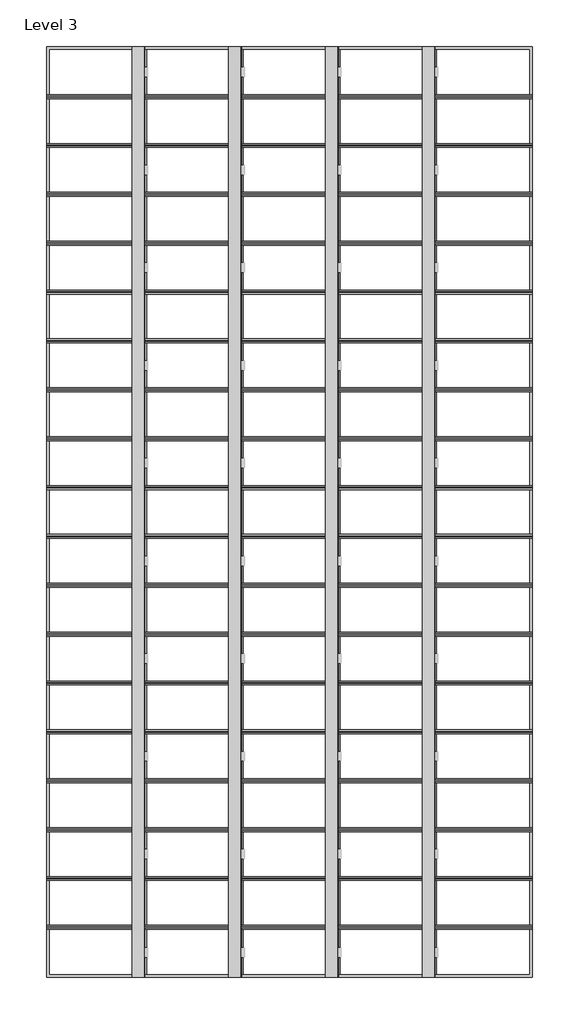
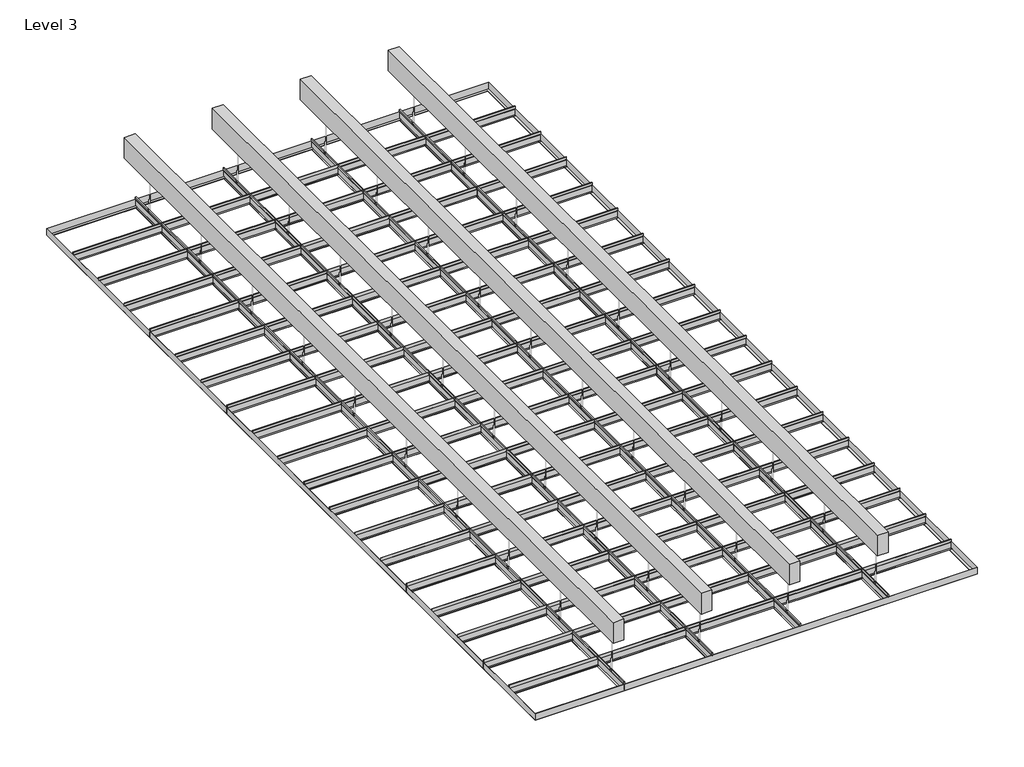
# One storey, part 1 of 2: 99 beams.
"""IFC4 building model written with IfcOpenShell, lengths in millimetres."""

from ifc_helpers import new_model, si_unit, origin, place, context, project, spatial, transform, mapped, element, save
from components import beam_7c791b7a, beam_b98c3e7d, ss7200_main_beams1_ss7200_main_beams_b51246fc, ss7200_main_beams11_ss7200_main_beams_49a61874, ss7200_main_beams73_ss7200_main_beams_fb220c4c, structural_support_from_slab1_structural_support_from_slab_da7f1bc3, structural_support_from_slab2_structural_support_from_slab_a1e1174d, structural_support_from_slab3_structural_support_from_slab_d8c653cb, structural_support_from_slab4_structural_support_from_slab_b1f46c81

model = new_model("IFC4")

# Units and contexts
model_context = context("Model", 3, world=origin())
ifc_project = project(units=[si_unit("LENGTHUNIT", "METRE", prefix="MILLI")], contexts=[model_context])

# Site, building, storey
site = spatial("IfcSite", under=ifc_project)
building = spatial("IfcBuilding", under=site)
storey = spatial("IfcBuildingStorey", under=building, Name="Level 3", Elevation=3355.6966054)

# Beams
placement = place(None, origin())
beam_shape = beam_7c791b7a(model_context)
element("IfcBeam", 1, ObjectType="XLSS7220 CROSS TEE1 : XLSS7220 CROSS TEE", at=placement, inside=storey, context=model_context, shape_type="MappedRepresentation", body=[
    mapped(beam_shape, transform((0.0, 0.0, 0.0), x_axis=(1.0, 0.0, 0.0), y_axis=(0.0, 1.0, 0.0), z_axis=(0.0, 0.0, 1.0))),
])
element("IfcBeam", 2, ObjectType="XLSS7220 CROSS TEE2 : XLSS7220 CROSS TEE", at=placement, inside=storey, context=model_context, shape_type="MappedRepresentation", body=[
    mapped(beam_shape, transform((-1231.020625, 0.0, 0.0), x_axis=(1.0, 0.0, 0.0), y_axis=(0.0, 1.0, 0.0), z_axis=(0.0, 0.0, 1.0))),
])
element("IfcBeam", 3, ObjectType="XLSS7220 CROSS TEE3 : XLSS7220 CROSS TEE", at=placement, inside=storey, context=model_context, shape_type="MappedRepresentation", body=[
    mapped(beam_shape, transform((-2462.120625, 0.0, 0.0), x_axis=(1.0, 0.0, 0.0), y_axis=(0.0, 1.0, 0.0), z_axis=(0.0, 0.0, 1.0))),
])
element("IfcBeam", 4, ObjectType="XLSS7220 CROSS TEE4 : XLSS7220 CROSS TEE", at=placement, inside=storey, context=model_context, shape_type="MappedRepresentation", body=[
    mapped(beam_shape, transform((-3693.220625, 0.0, 0.0), x_axis=(1.0, 0.0, 0.0), y_axis=(0.0, 1.0, 0.0), z_axis=(0.0, 0.0, 1.0))),
])
beam_2_shape = beam_b98c3e7d(model_context)
element("IfcBeam", 5, ObjectType="SS7801 HEMMED EDGE MOLDING : SS7801 HEMMED EDGE MOLDING", at=placement, inside=storey, context=model_context, shape_type="MappedRepresentation", body=[
    mapped(beam_2_shape, transform((0.0, 0.0, 0.0), x_axis=(1.0, 0.0, 0.0), y_axis=(0.0, 1.0, 0.0), z_axis=(0.0, 0.0, 1.0))),
])
ss7200_main_beams1_ss7200_main_beams_shape = ss7200_main_beams1_ss7200_main_beams_b51246fc(model_context)
element("IfcBeam", 6, ObjectType="SS7200 Main Beams1 : SS7200 Main Beams", at=placement, inside=storey, context=model_context, shape_type="MappedRepresentation", body=[
    mapped(ss7200_main_beams1_ss7200_main_beams_shape, transform((0.0, 550.0604687, -1.984375), x_axis=(1.0, 0.0, 0.0), y_axis=(0.0, 1.0, 0.0), z_axis=(0.0, 0.0, 1.0))),
])
element("IfcBeam", 7, ObjectType="SS7200 Main Beams10 : SS7200 Main Beams", at=placement, inside=storey, context=model_context, shape_type="MappedRepresentation", body=[
    mapped(ss7200_main_beams1_ss7200_main_beams_shape, transform((-1231.1, -692.9395313, -1.984375), x_axis=(1.0, 0.0, 0.0), y_axis=(0.0, 1.0, 0.0), z_axis=(0.0, 0.0, 1.0))),
])
ss7200_main_beams11_ss7200_main_beams_shape = ss7200_main_beams11_ss7200_main_beams_49a61874(model_context)
element("IfcBeam", 8, ObjectType="SS7200 Main Beams11 : SS7200 Main Beams", at=placement, inside=storey, context=model_context, shape_type="MappedRepresentation", body=[
    mapped(ss7200_main_beams11_ss7200_main_beams_shape, transform((-16.4977839, -1935.9395313, -1.984375), x_axis=(1.0, 0.0, 0.0), y_axis=(0.0, 1.0, 0.0), z_axis=(0.0, 0.0, 1.0))),
])
element("IfcBeam", 9, ObjectType="SS7200 Main Beams12 : SS7200 Main Beams", at=placement, inside=storey, context=model_context, shape_type="MappedRepresentation", body=[
    mapped(ss7200_main_beams1_ss7200_main_beams_shape, transform((-2462.2, -692.9395313, -1.984375), x_axis=(1.0, 0.0, 0.0), y_axis=(0.0, 1.0, 0.0), z_axis=(0.0, 0.0, 1.0))),
])
element("IfcBeam", 10, ObjectType="SS7200 Main Beams13 : SS7200 Main Beams", at=placement, inside=storey, context=model_context, shape_type="MappedRepresentation", body=[
    mapped(ss7200_main_beams1_ss7200_main_beams_shape, transform((-1231.1, -1314.4395313, -1.984375), x_axis=(1.0, 0.0, 0.0), y_axis=(0.0, 1.0, 0.0), z_axis=(0.0, 0.0, 1.0))),
])
element("IfcBeam", 11, ObjectType="SS7200 Main Beams14 : SS7200 Main Beams", at=placement, inside=storey, context=model_context, shape_type="MappedRepresentation", body=[
    mapped(ss7200_main_beams11_ss7200_main_beams_shape, transform((-16.4977839, -2557.4395313, -1.984375), x_axis=(1.0, 0.0, 0.0), y_axis=(0.0, 1.0, 0.0), z_axis=(0.0, 0.0, 1.0))),
])
element("IfcBeam", 12, ObjectType="SS7200 Main Beams15 : SS7200 Main Beams", at=placement, inside=storey, context=model_context, shape_type="MappedRepresentation", body=[
    mapped(ss7200_main_beams1_ss7200_main_beams_shape, transform((-2462.2, -1314.4395313, -1.984375), x_axis=(1.0, 0.0, 0.0), y_axis=(0.0, 1.0, 0.0), z_axis=(0.0, 0.0, 1.0))),
])
element("IfcBeam", 13, ObjectType="SS7200 Main Beams16 : SS7200 Main Beams", at=placement, inside=storey, context=model_context, shape_type="MappedRepresentation", body=[
    mapped(ss7200_main_beams1_ss7200_main_beams_shape, transform((-1231.1, -1935.9395313, -1.984375), x_axis=(1.0, 0.0, 0.0), y_axis=(0.0, 1.0, 0.0), z_axis=(0.0, 0.0, 1.0))),
])
element("IfcBeam", 14, ObjectType="SS7200 Main Beams17 : SS7200 Main Beams", at=placement, inside=storey, context=model_context, shape_type="MappedRepresentation", body=[
    mapped(ss7200_main_beams11_ss7200_main_beams_shape, transform((-16.4977839, -3178.9395313, -1.984375), x_axis=(1.0, 0.0, 0.0), y_axis=(0.0, 1.0, 0.0), z_axis=(0.0, 0.0, 1.0))),
])
element("IfcBeam", 15, ObjectType="SS7200 Main Beams18 : SS7200 Main Beams", at=placement, inside=storey, context=model_context, shape_type="MappedRepresentation", body=[
    mapped(ss7200_main_beams1_ss7200_main_beams_shape, transform((-2462.2, -1935.9395313, -1.984375), x_axis=(1.0, 0.0, 0.0), y_axis=(0.0, 1.0, 0.0), z_axis=(0.0, 0.0, 1.0))),
])
element("IfcBeam", 16, ObjectType="SS7200 Main Beams19 : SS7200 Main Beams", at=placement, inside=storey, context=model_context, shape_type="MappedRepresentation", body=[
    mapped(ss7200_main_beams1_ss7200_main_beams_shape, transform((-1231.1, -2557.4395313, -1.984375), x_axis=(1.0, 0.0, 0.0), y_axis=(0.0, 1.0, 0.0), z_axis=(0.0, 0.0, 1.0))),
])
element("IfcBeam", 17, ObjectType="SS7200 Main Beams2 : SS7200 Main Beams", at=placement, inside=storey, context=model_context, shape_type="MappedRepresentation", body=[
    mapped(ss7200_main_beams11_ss7200_main_beams_shape, transform((-16.4977839, 550.0604687, -1.984375), x_axis=(1.0, 0.0, 0.0), y_axis=(0.0, 1.0, 0.0), z_axis=(0.0, 0.0, 1.0))),
])
element("IfcBeam", 18, ObjectType="SS7200 Main Beams20 : SS7200 Main Beams", at=placement, inside=storey, context=model_context, shape_type="MappedRepresentation", body=[
    mapped(ss7200_main_beams11_ss7200_main_beams_shape, transform((-16.4977839, -3800.4395313, -1.984375), x_axis=(1.0, 0.0, 0.0), y_axis=(0.0, 1.0, 0.0), z_axis=(0.0, 0.0, 1.0))),
])
element("IfcBeam", 19, ObjectType="SS7200 Main Beams21 : SS7200 Main Beams", at=placement, inside=storey, context=model_context, shape_type="MappedRepresentation", body=[
    mapped(ss7200_main_beams1_ss7200_main_beams_shape, transform((-2462.2, -2557.4395313, -1.984375), x_axis=(1.0, 0.0, 0.0), y_axis=(0.0, 1.0, 0.0), z_axis=(0.0, 0.0, 1.0))),
])
element("IfcBeam", 20, ObjectType="SS7200 Main Beams22 : SS7200 Main Beams", at=placement, inside=storey, context=model_context, shape_type="MappedRepresentation", body=[
    mapped(ss7200_main_beams1_ss7200_main_beams_shape, transform((-1231.1, -3178.9395313, -1.984375), x_axis=(1.0, 0.0, 0.0), y_axis=(0.0, 1.0, 0.0), z_axis=(0.0, 0.0, 1.0))),
])
element("IfcBeam", 21, ObjectType="SS7200 Main Beams23 : SS7200 Main Beams", at=placement, inside=storey, context=model_context, shape_type="MappedRepresentation", body=[
    mapped(ss7200_main_beams11_ss7200_main_beams_shape, transform((-16.4977839, -4421.9395313, -1.984375), x_axis=(1.0, 0.0, 0.0), y_axis=(0.0, 1.0, 0.0), z_axis=(0.0, 0.0, 1.0))),
])
element("IfcBeam", 22, ObjectType="SS7200 Main Beams24 : SS7200 Main Beams", at=placement, inside=storey, context=model_context, shape_type="MappedRepresentation", body=[
    mapped(ss7200_main_beams1_ss7200_main_beams_shape, transform((-2462.2, -3178.9395313, -1.984375), x_axis=(1.0, 0.0, 0.0), y_axis=(0.0, 1.0, 0.0), z_axis=(0.0, 0.0, 1.0))),
])
element("IfcBeam", 23, ObjectType="SS7200 Main Beams25 : SS7200 Main Beams", at=placement, inside=storey, context=model_context, shape_type="MappedRepresentation", body=[
    mapped(ss7200_main_beams1_ss7200_main_beams_shape, transform((-1231.1, -3800.4395313, -1.984375), x_axis=(1.0, 0.0, 0.0), y_axis=(0.0, 1.0, 0.0), z_axis=(0.0, 0.0, 1.0))),
])
element("IfcBeam", 24, ObjectType="SS7200 Main Beams26 : SS7200 Main Beams", at=placement, inside=storey, context=model_context, shape_type="MappedRepresentation", body=[
    mapped(ss7200_main_beams11_ss7200_main_beams_shape, transform((-16.4977839, -5043.4395313, -1.984375), x_axis=(1.0, 0.0, 0.0), y_axis=(0.0, 1.0, 0.0), z_axis=(0.0, 0.0, 1.0))),
])
element("IfcBeam", 25, ObjectType="SS7200 Main Beams27 : SS7200 Main Beams", at=placement, inside=storey, context=model_context, shape_type="MappedRepresentation", body=[
    mapped(ss7200_main_beams11_ss7200_main_beams_shape, transform((-16.4977839, -5664.9395313, -1.984375), x_axis=(1.0, 0.0, 0.0), y_axis=(0.0, 1.0, 0.0), z_axis=(0.0, 0.0, 1.0))),
])
element("IfcBeam", 26, ObjectType="SS7200 Main Beams28 : SS7200 Main Beams", at=placement, inside=storey, context=model_context, shape_type="MappedRepresentation", body=[
    mapped(ss7200_main_beams11_ss7200_main_beams_shape, transform((-16.4977839, -6286.4395313, -1.984375), x_axis=(1.0, 0.0, 0.0), y_axis=(0.0, 1.0, 0.0), z_axis=(0.0, 0.0, 1.0))),
])
element("IfcBeam", 27, ObjectType="SS7200 Main Beams29 : SS7200 Main Beams", at=placement, inside=storey, context=model_context, shape_type="MappedRepresentation", body=[
    mapped(ss7200_main_beams11_ss7200_main_beams_shape, transform((-16.4977839, -6907.9395313, -1.984375), x_axis=(1.0, 0.0, 0.0), y_axis=(0.0, 1.0, 0.0), z_axis=(0.0, 0.0, 1.0))),
])
element("IfcBeam", 28, ObjectType="SS7200 Main Beams3 : SS7200 Main Beams", at=placement, inside=storey, context=model_context, shape_type="MappedRepresentation", body=[
    mapped(ss7200_main_beams1_ss7200_main_beams_shape, transform((-2462.2, 550.0604687, -1.984375), x_axis=(1.0, 0.0, 0.0), y_axis=(0.0, 1.0, 0.0), z_axis=(0.0, 0.0, 1.0))),
])
element("IfcBeam", 29, ObjectType="SS7200 Main Beams30 : SS7200 Main Beams", at=placement, inside=storey, context=model_context, shape_type="MappedRepresentation", body=[
    mapped(ss7200_main_beams11_ss7200_main_beams_shape, transform((-16.4977839, -7529.4395313, -1.984375), x_axis=(1.0, 0.0, 0.0), y_axis=(0.0, 1.0, 0.0), z_axis=(0.0, 0.0, 1.0))),
])
element("IfcBeam", 30, ObjectType="SS7200 Main Beams31 : SS7200 Main Beams", at=placement, inside=storey, context=model_context, shape_type="MappedRepresentation", body=[
    mapped(ss7200_main_beams11_ss7200_main_beams_shape, transform((-16.4977839, -8150.9395313, -1.984375), x_axis=(1.0, 0.0, 0.0), y_axis=(0.0, 1.0, 0.0), z_axis=(0.0, 0.0, 1.0))),
])
element("IfcBeam", 31, ObjectType="SS7200 Main Beams32 : SS7200 Main Beams", at=placement, inside=storey, context=model_context, shape_type="MappedRepresentation", body=[
    mapped(ss7200_main_beams11_ss7200_main_beams_shape, transform((-16.4977839, -8772.4395313, -1.984375), x_axis=(1.0, 0.0, 0.0), y_axis=(0.0, 1.0, 0.0), z_axis=(0.0, 0.0, 1.0))),
])
element("IfcBeam", 32, ObjectType="SS7200 Main Beams33 : SS7200 Main Beams", at=placement, inside=storey, context=model_context, shape_type="MappedRepresentation", body=[
    mapped(ss7200_main_beams11_ss7200_main_beams_shape, transform((-16.4977839, -9393.9395313, -1.984375), x_axis=(1.0, 0.0, 0.0), y_axis=(0.0, 1.0, 0.0), z_axis=(0.0, 0.0, 1.0))),
])
element("IfcBeam", 33, ObjectType="SS7200 Main Beams34 : SS7200 Main Beams", at=placement, inside=storey, context=model_context, shape_type="MappedRepresentation", body=[
    mapped(ss7200_main_beams11_ss7200_main_beams_shape, transform((-16.4977839, -10015.4395313, -1.984375), x_axis=(1.0, 0.0, 0.0), y_axis=(0.0, 1.0, 0.0), z_axis=(0.0, 0.0, 1.0))),
])
element("IfcBeam", 34, ObjectType="SS7200 Main Beams35 : SS7200 Main Beams", at=placement, inside=storey, context=model_context, shape_type="MappedRepresentation", body=[
    mapped(ss7200_main_beams1_ss7200_main_beams_shape, transform((0.0, -71.4395313, -1.984375), x_axis=(1.0, 0.0, 0.0), y_axis=(0.0, 1.0, 0.0), z_axis=(0.0, 0.0, 1.0))),
])
element("IfcBeam", 35, ObjectType="SS7200 Main Beams36 : SS7200 Main Beams", at=placement, inside=storey, context=model_context, shape_type="MappedRepresentation", body=[
    mapped(ss7200_main_beams1_ss7200_main_beams_shape, transform((0.0, -692.9395313, -1.984375), x_axis=(1.0, 0.0, 0.0), y_axis=(0.0, 1.0, 0.0), z_axis=(0.0, 0.0, 1.0))),
])
element("IfcBeam", 36, ObjectType="SS7200 Main Beams37 : SS7200 Main Beams", at=placement, inside=storey, context=model_context, shape_type="MappedRepresentation", body=[
    mapped(ss7200_main_beams1_ss7200_main_beams_shape, transform((0.0, -1314.4395313, -1.984375), x_axis=(1.0, 0.0, 0.0), y_axis=(0.0, 1.0, 0.0), z_axis=(0.0, 0.0, 1.0))),
])
element("IfcBeam", 37, ObjectType="SS7200 Main Beams38 : SS7200 Main Beams", at=placement, inside=storey, context=model_context, shape_type="MappedRepresentation", body=[
    mapped(ss7200_main_beams1_ss7200_main_beams_shape, transform((0.0, -1935.9395313, -1.984375), x_axis=(1.0, 0.0, 0.0), y_axis=(0.0, 1.0, 0.0), z_axis=(0.0, 0.0, 1.0))),
])
element("IfcBeam", 38, ObjectType="SS7200 Main Beams39 : SS7200 Main Beams", at=placement, inside=storey, context=model_context, shape_type="MappedRepresentation", body=[
    mapped(ss7200_main_beams1_ss7200_main_beams_shape, transform((0.0, -2557.4395313, -1.984375), x_axis=(1.0, 0.0, 0.0), y_axis=(0.0, 1.0, 0.0), z_axis=(0.0, 0.0, 1.0))),
])
element("IfcBeam", 39, ObjectType="SS7200 Main Beams4 : SS7200 Main Beams", at=placement, inside=storey, context=model_context, shape_type="MappedRepresentation", body=[
    mapped(ss7200_main_beams1_ss7200_main_beams_shape, transform((-1231.1, 550.0604687, -1.984375), x_axis=(1.0, 0.0, 0.0), y_axis=(0.0, 1.0, 0.0), z_axis=(0.0, 0.0, 1.0))),
])
element("IfcBeam", 40, ObjectType="SS7200 Main Beams40 : SS7200 Main Beams", at=placement, inside=storey, context=model_context, shape_type="MappedRepresentation", body=[
    mapped(ss7200_main_beams1_ss7200_main_beams_shape, transform((0.0, -3178.9395313, -1.984375), x_axis=(1.0, 0.0, 0.0), y_axis=(0.0, 1.0, 0.0), z_axis=(0.0, 0.0, 1.0))),
])
element("IfcBeam", 41, ObjectType="SS7200 Main Beams41 : SS7200 Main Beams", at=placement, inside=storey, context=model_context, shape_type="MappedRepresentation", body=[
    mapped(ss7200_main_beams1_ss7200_main_beams_shape, transform((0.0, -3800.4395313, -1.984375), x_axis=(1.0, 0.0, 0.0), y_axis=(0.0, 1.0, 0.0), z_axis=(0.0, 0.0, 1.0))),
])
element("IfcBeam", 42, ObjectType="SS7200 Main Beams42 : SS7200 Main Beams", at=placement, inside=storey, context=model_context, shape_type="MappedRepresentation", body=[
    mapped(ss7200_main_beams1_ss7200_main_beams_shape, transform((0.0, -4421.9395313, -1.984375), x_axis=(1.0, 0.0, 0.0), y_axis=(0.0, 1.0, 0.0), z_axis=(0.0, 0.0, 1.0))),
])
element("IfcBeam", 43, ObjectType="SS7200 Main Beams43 : SS7200 Main Beams", at=placement, inside=storey, context=model_context, shape_type="MappedRepresentation", body=[
    mapped(ss7200_main_beams1_ss7200_main_beams_shape, transform((0.0, -5043.4395313, -1.984375), x_axis=(1.0, 0.0, 0.0), y_axis=(0.0, 1.0, 0.0), z_axis=(0.0, 0.0, 1.0))),
])
element("IfcBeam", 44, ObjectType="SS7200 Main Beams44 : SS7200 Main Beams", at=placement, inside=storey, context=model_context, shape_type="MappedRepresentation", body=[
    mapped(ss7200_main_beams1_ss7200_main_beams_shape, transform((0.0, -5664.9395313, -1.984375), x_axis=(1.0, 0.0, 0.0), y_axis=(0.0, 1.0, 0.0), z_axis=(0.0, 0.0, 1.0))),
])
element("IfcBeam", 45, ObjectType="SS7200 Main Beams45 : SS7200 Main Beams", at=placement, inside=storey, context=model_context, shape_type="MappedRepresentation", body=[
    mapped(ss7200_main_beams1_ss7200_main_beams_shape, transform((0.0, -6286.4395313, -1.984375), x_axis=(1.0, 0.0, 0.0), y_axis=(0.0, 1.0, 0.0), z_axis=(0.0, 0.0, 1.0))),
])
element("IfcBeam", 46, ObjectType="SS7200 Main Beams46 : SS7200 Main Beams", at=placement, inside=storey, context=model_context, shape_type="MappedRepresentation", body=[
    mapped(ss7200_main_beams1_ss7200_main_beams_shape, transform((0.0, -6907.9395313, -1.984375), x_axis=(1.0, 0.0, 0.0), y_axis=(0.0, 1.0, 0.0), z_axis=(0.0, 0.0, 1.0))),
])
element("IfcBeam", 47, ObjectType="SS7200 Main Beams47 : SS7200 Main Beams", at=placement, inside=storey, context=model_context, shape_type="MappedRepresentation", body=[
    mapped(ss7200_main_beams1_ss7200_main_beams_shape, transform((0.0, -7529.4395313, -1.984375), x_axis=(1.0, 0.0, 0.0), y_axis=(0.0, 1.0, 0.0), z_axis=(0.0, 0.0, 1.0))),
])
element("IfcBeam", 48, ObjectType="SS7200 Main Beams48 : SS7200 Main Beams", at=placement, inside=storey, context=model_context, shape_type="MappedRepresentation", body=[
    mapped(ss7200_main_beams1_ss7200_main_beams_shape, transform((0.0, -8150.9395313, -1.984375), x_axis=(1.0, 0.0, 0.0), y_axis=(0.0, 1.0, 0.0), z_axis=(0.0, 0.0, 1.0))),
])
element("IfcBeam", 49, ObjectType="SS7200 Main Beams49 : SS7200 Main Beams", at=placement, inside=storey, context=model_context, shape_type="MappedRepresentation", body=[
    mapped(ss7200_main_beams1_ss7200_main_beams_shape, transform((0.0, -8772.4395313, -1.984375), x_axis=(1.0, 0.0, 0.0), y_axis=(0.0, 1.0, 0.0), z_axis=(0.0, 0.0, 1.0))),
])
element("IfcBeam", 50, ObjectType="SS7200 Main Beams5 : SS7200 Main Beams", at=placement, inside=storey, context=model_context, shape_type="MappedRepresentation", body=[
    mapped(ss7200_main_beams11_ss7200_main_beams_shape, transform((-16.4977839, -692.9395313, -1.984375), x_axis=(1.0, 0.0, 0.0), y_axis=(0.0, 1.0, 0.0), z_axis=(0.0, 0.0, 1.0))),
])
element("IfcBeam", 51, ObjectType="SS7200 Main Beams50 : SS7200 Main Beams", at=placement, inside=storey, context=model_context, shape_type="MappedRepresentation", body=[
    mapped(ss7200_main_beams1_ss7200_main_beams_shape, transform((0.0, -9393.9395313, -1.984375), x_axis=(1.0, 0.0, 0.0), y_axis=(0.0, 1.0, 0.0), z_axis=(0.0, 0.0, 1.0))),
])
element("IfcBeam", 52, ObjectType="SS7200 Main Beams51 : SS7200 Main Beams", at=placement, inside=storey, context=model_context, shape_type="MappedRepresentation", body=[
    mapped(ss7200_main_beams1_ss7200_main_beams_shape, transform((0.0, -10015.4395313, -1.984375), x_axis=(1.0, 0.0, 0.0), y_axis=(0.0, 1.0, 0.0), z_axis=(0.0, 0.0, 1.0))),
])
element("IfcBeam", 53, ObjectType="SS7200 Main Beams52 : SS7200 Main Beams", at=placement, inside=storey, context=model_context, shape_type="MappedRepresentation", body=[
    mapped(ss7200_main_beams1_ss7200_main_beams_shape, transform((-1231.1, -4421.9395313, -1.984375), x_axis=(1.0, 0.0, 0.0), y_axis=(0.0, 1.0, 0.0), z_axis=(0.0, 0.0, 1.0))),
])
element("IfcBeam", 54, ObjectType="SS7200 Main Beams53 : SS7200 Main Beams", at=placement, inside=storey, context=model_context, shape_type="MappedRepresentation", body=[
    mapped(ss7200_main_beams1_ss7200_main_beams_shape, transform((-1231.1, -5043.4395313, -1.984375), x_axis=(1.0, 0.0, 0.0), y_axis=(0.0, 1.0, 0.0), z_axis=(0.0, 0.0, 1.0))),
])
element("IfcBeam", 55, ObjectType="SS7200 Main Beams54 : SS7200 Main Beams", at=placement, inside=storey, context=model_context, shape_type="MappedRepresentation", body=[
    mapped(ss7200_main_beams1_ss7200_main_beams_shape, transform((-1231.1, -5664.9395313, -1.984375), x_axis=(1.0, 0.0, 0.0), y_axis=(0.0, 1.0, 0.0), z_axis=(0.0, 0.0, 1.0))),
])
element("IfcBeam", 56, ObjectType="SS7200 Main Beams55 : SS7200 Main Beams", at=placement, inside=storey, context=model_context, shape_type="MappedRepresentation", body=[
    mapped(ss7200_main_beams1_ss7200_main_beams_shape, transform((-1231.1, -6286.4395313, -1.984375), x_axis=(1.0, 0.0, 0.0), y_axis=(0.0, 1.0, 0.0), z_axis=(0.0, 0.0, 1.0))),
])
element("IfcBeam", 57, ObjectType="SS7200 Main Beams56 : SS7200 Main Beams", at=placement, inside=storey, context=model_context, shape_type="MappedRepresentation", body=[
    mapped(ss7200_main_beams1_ss7200_main_beams_shape, transform((-1231.1, -6907.9395313, -1.984375), x_axis=(1.0, 0.0, 0.0), y_axis=(0.0, 1.0, 0.0), z_axis=(0.0, 0.0, 1.0))),
])
element("IfcBeam", 58, ObjectType="SS7200 Main Beams57 : SS7200 Main Beams", at=placement, inside=storey, context=model_context, shape_type="MappedRepresentation", body=[
    mapped(ss7200_main_beams1_ss7200_main_beams_shape, transform((-1231.1, -7529.4395313, -1.984375), x_axis=(1.0, 0.0, 0.0), y_axis=(0.0, 1.0, 0.0), z_axis=(0.0, 0.0, 1.0))),
])
element("IfcBeam", 59, ObjectType="SS7200 Main Beams58 : SS7200 Main Beams", at=placement, inside=storey, context=model_context, shape_type="MappedRepresentation", body=[
    mapped(ss7200_main_beams1_ss7200_main_beams_shape, transform((-1231.1, -8150.9395313, -1.984375), x_axis=(1.0, 0.0, 0.0), y_axis=(0.0, 1.0, 0.0), z_axis=(0.0, 0.0, 1.0))),
])
element("IfcBeam", 60, ObjectType="SS7200 Main Beams59 : SS7200 Main Beams", at=placement, inside=storey, context=model_context, shape_type="MappedRepresentation", body=[
    mapped(ss7200_main_beams1_ss7200_main_beams_shape, transform((-1231.1, -8772.4395313, -1.984375), x_axis=(1.0, 0.0, 0.0), y_axis=(0.0, 1.0, 0.0), z_axis=(0.0, 0.0, 1.0))),
])
element("IfcBeam", 61, ObjectType="SS7200 Main Beams6 : SS7200 Main Beams", at=placement, inside=storey, context=model_context, shape_type="MappedRepresentation", body=[
    mapped(ss7200_main_beams1_ss7200_main_beams_shape, transform((-2462.2, -71.4395313, -1.984375), x_axis=(1.0, 0.0, 0.0), y_axis=(0.0, 1.0, 0.0), z_axis=(0.0, 0.0, 1.0))),
])
element("IfcBeam", 62, ObjectType="SS7200 Main Beams60 : SS7200 Main Beams", at=placement, inside=storey, context=model_context, shape_type="MappedRepresentation", body=[
    mapped(ss7200_main_beams1_ss7200_main_beams_shape, transform((-1231.1, -9393.9395313, -1.984375), x_axis=(1.0, 0.0, 0.0), y_axis=(0.0, 1.0, 0.0), z_axis=(0.0, 0.0, 1.0))),
])
element("IfcBeam", 63, ObjectType="SS7200 Main Beams61 : SS7200 Main Beams", at=placement, inside=storey, context=model_context, shape_type="MappedRepresentation", body=[
    mapped(ss7200_main_beams1_ss7200_main_beams_shape, transform((-1231.1, -10015.4395313, -1.984375), x_axis=(1.0, 0.0, 0.0), y_axis=(0.0, 1.0, 0.0), z_axis=(0.0, 0.0, 1.0))),
])
element("IfcBeam", 64, ObjectType="SS7200 Main Beams62 : SS7200 Main Beams", at=placement, inside=storey, context=model_context, shape_type="MappedRepresentation", body=[
    mapped(ss7200_main_beams1_ss7200_main_beams_shape, transform((-2462.2, -3800.4395313, -1.984375), x_axis=(1.0, 0.0, 0.0), y_axis=(0.0, 1.0, 0.0), z_axis=(0.0, 0.0, 1.0))),
])
element("IfcBeam", 65, ObjectType="SS7200 Main Beams63 : SS7200 Main Beams", at=placement, inside=storey, context=model_context, shape_type="MappedRepresentation", body=[
    mapped(ss7200_main_beams1_ss7200_main_beams_shape, transform((-2462.2, -4421.9395313, -1.984375), x_axis=(1.0, 0.0, 0.0), y_axis=(0.0, 1.0, 0.0), z_axis=(0.0, 0.0, 1.0))),
])
element("IfcBeam", 66, ObjectType="SS7200 Main Beams64 : SS7200 Main Beams", at=placement, inside=storey, context=model_context, shape_type="MappedRepresentation", body=[
    mapped(ss7200_main_beams1_ss7200_main_beams_shape, transform((-2462.2, -5043.4395313, -1.984375), x_axis=(1.0, 0.0, 0.0), y_axis=(0.0, 1.0, 0.0), z_axis=(0.0, 0.0, 1.0))),
])
element("IfcBeam", 67, ObjectType="SS7200 Main Beams65 : SS7200 Main Beams", at=placement, inside=storey, context=model_context, shape_type="MappedRepresentation", body=[
    mapped(ss7200_main_beams1_ss7200_main_beams_shape, transform((-2462.2, -5664.9395313, -1.984375), x_axis=(1.0, 0.0, 0.0), y_axis=(0.0, 1.0, 0.0), z_axis=(0.0, 0.0, 1.0))),
])
element("IfcBeam", 68, ObjectType="SS7200 Main Beams66 : SS7200 Main Beams", at=placement, inside=storey, context=model_context, shape_type="MappedRepresentation", body=[
    mapped(ss7200_main_beams1_ss7200_main_beams_shape, transform((-2462.2, -6286.4395313, -1.984375), x_axis=(1.0, 0.0, 0.0), y_axis=(0.0, 1.0, 0.0), z_axis=(0.0, 0.0, 1.0))),
])
element("IfcBeam", 69, ObjectType="SS7200 Main Beams67 : SS7200 Main Beams", at=placement, inside=storey, context=model_context, shape_type="MappedRepresentation", body=[
    mapped(ss7200_main_beams1_ss7200_main_beams_shape, transform((-2462.2, -6907.9395313, -1.984375), x_axis=(1.0, 0.0, 0.0), y_axis=(0.0, 1.0, 0.0), z_axis=(0.0, 0.0, 1.0))),
])
element("IfcBeam", 70, ObjectType="SS7200 Main Beams68 : SS7200 Main Beams", at=placement, inside=storey, context=model_context, shape_type="MappedRepresentation", body=[
    mapped(ss7200_main_beams1_ss7200_main_beams_shape, transform((-2462.2, -7529.4395313, -1.984375), x_axis=(1.0, 0.0, 0.0), y_axis=(0.0, 1.0, 0.0), z_axis=(0.0, 0.0, 1.0))),
])
element("IfcBeam", 71, ObjectType="SS7200 Main Beams69 : SS7200 Main Beams", at=placement, inside=storey, context=model_context, shape_type="MappedRepresentation", body=[
    mapped(ss7200_main_beams1_ss7200_main_beams_shape, transform((-2462.2, -8150.9395313, -1.984375), x_axis=(1.0, 0.0, 0.0), y_axis=(0.0, 1.0, 0.0), z_axis=(0.0, 0.0, 1.0))),
])
element("IfcBeam", 72, ObjectType="SS7200 Main Beams7 : SS7200 Main Beams", at=placement, inside=storey, context=model_context, shape_type="MappedRepresentation", body=[
    mapped(ss7200_main_beams1_ss7200_main_beams_shape, transform((-1231.1, -71.4395313, -1.984375), x_axis=(1.0, 0.0, 0.0), y_axis=(0.0, 1.0, 0.0), z_axis=(0.0, 0.0, 1.0))),
])
element("IfcBeam", 73, ObjectType="SS7200 Main Beams70 : SS7200 Main Beams", at=placement, inside=storey, context=model_context, shape_type="MappedRepresentation", body=[
    mapped(ss7200_main_beams1_ss7200_main_beams_shape, transform((-2462.2, -8772.4395313, -1.984375), x_axis=(1.0, 0.0, 0.0), y_axis=(0.0, 1.0, 0.0), z_axis=(0.0, 0.0, 1.0))),
])
element("IfcBeam", 74, ObjectType="SS7200 Main Beams71 : SS7200 Main Beams", at=placement, inside=storey, context=model_context, shape_type="MappedRepresentation", body=[
    mapped(ss7200_main_beams1_ss7200_main_beams_shape, transform((-2462.2, -9393.9395313, -1.984375), x_axis=(1.0, 0.0, 0.0), y_axis=(0.0, 1.0, 0.0), z_axis=(0.0, 0.0, 1.0))),
])
element("IfcBeam", 75, ObjectType="SS7200 Main Beams72 : SS7200 Main Beams", at=placement, inside=storey, context=model_context, shape_type="MappedRepresentation", body=[
    mapped(ss7200_main_beams1_ss7200_main_beams_shape, transform((-2462.2, -10015.4395313, -1.984375), x_axis=(1.0, 0.0, 0.0), y_axis=(0.0, 1.0, 0.0), z_axis=(0.0, 0.0, 1.0))),
])
ss7200_main_beams73_ss7200_main_beams_shape = ss7200_main_beams73_ss7200_main_beams_fb220c4c(model_context)
element("IfcBeam", 76, ObjectType="SS7200 Main Beams73 : SS7200 Main Beams", at=placement, inside=storey, context=model_context, shape_type="MappedRepresentation", body=[
    mapped(ss7200_main_beams73_ss7200_main_beams_shape, transform((-3693.3, 550.0604687, -1.984375), x_axis=(1.0, 0.0, 0.0), y_axis=(0.0, 1.0, 0.0), z_axis=(0.0, 0.0, 1.0))),
])
element("IfcBeam", 77, ObjectType="SS7200 Main Beams74 : SS7200 Main Beams", at=placement, inside=storey, context=model_context, shape_type="MappedRepresentation", body=[
    mapped(ss7200_main_beams73_ss7200_main_beams_shape, transform((-3693.3, -71.4395313, -1.984375), x_axis=(1.0, 0.0, 0.0), y_axis=(0.0, 1.0, 0.0), z_axis=(0.0, 0.0, 1.0))),
])
element("IfcBeam", 78, ObjectType="SS7200 Main Beams75 : SS7200 Main Beams", at=placement, inside=storey, context=model_context, shape_type="MappedRepresentation", body=[
    mapped(ss7200_main_beams73_ss7200_main_beams_shape, transform((-3693.3, -692.9395313, -1.984375), x_axis=(1.0, 0.0, 0.0), y_axis=(0.0, 1.0, 0.0), z_axis=(0.0, 0.0, 1.0))),
])
element("IfcBeam", 79, ObjectType="SS7200 Main Beams76 : SS7200 Main Beams", at=placement, inside=storey, context=model_context, shape_type="MappedRepresentation", body=[
    mapped(ss7200_main_beams73_ss7200_main_beams_shape, transform((-3693.3, -1314.4395313, -1.984375), x_axis=(1.0, 0.0, 0.0), y_axis=(0.0, 1.0, 0.0), z_axis=(0.0, 0.0, 1.0))),
])
element("IfcBeam", 80, ObjectType="SS7200 Main Beams77 : SS7200 Main Beams", at=placement, inside=storey, context=model_context, shape_type="MappedRepresentation", body=[
    mapped(ss7200_main_beams73_ss7200_main_beams_shape, transform((-3693.3, -1935.9395313, -1.984375), x_axis=(1.0, 0.0, 0.0), y_axis=(0.0, 1.0, 0.0), z_axis=(0.0, 0.0, 1.0))),
])
element("IfcBeam", 81, ObjectType="SS7200 Main Beams78 : SS7200 Main Beams", at=placement, inside=storey, context=model_context, shape_type="MappedRepresentation", body=[
    mapped(ss7200_main_beams73_ss7200_main_beams_shape, transform((-3693.3, -2557.4395313, -1.984375), x_axis=(1.0, 0.0, 0.0), y_axis=(0.0, 1.0, 0.0), z_axis=(0.0, 0.0, 1.0))),
])
element("IfcBeam", 82, ObjectType="SS7200 Main Beams79 : SS7200 Main Beams", at=placement, inside=storey, context=model_context, shape_type="MappedRepresentation", body=[
    mapped(ss7200_main_beams73_ss7200_main_beams_shape, transform((-3693.3, -3178.9395313, -1.984375), x_axis=(1.0, 0.0, 0.0), y_axis=(0.0, 1.0, 0.0), z_axis=(0.0, 0.0, 1.0))),
])
element("IfcBeam", 83, ObjectType="SS7200 Main Beams8 : SS7200 Main Beams", at=placement, inside=storey, context=model_context, shape_type="MappedRepresentation", body=[
    mapped(ss7200_main_beams11_ss7200_main_beams_shape, transform((-16.4977839, -1314.4395313, -1.984375), x_axis=(1.0, 0.0, 0.0), y_axis=(0.0, 1.0, 0.0), z_axis=(0.0, 0.0, 1.0))),
])
element("IfcBeam", 84, ObjectType="SS7200 Main Beams80 : SS7200 Main Beams", at=placement, inside=storey, context=model_context, shape_type="MappedRepresentation", body=[
    mapped(ss7200_main_beams73_ss7200_main_beams_shape, transform((-3693.3, -3800.4395313, -1.984375), x_axis=(1.0, 0.0, 0.0), y_axis=(0.0, 1.0, 0.0), z_axis=(0.0, 0.0, 1.0))),
])
element("IfcBeam", 85, ObjectType="SS7200 Main Beams81 : SS7200 Main Beams", at=placement, inside=storey, context=model_context, shape_type="MappedRepresentation", body=[
    mapped(ss7200_main_beams73_ss7200_main_beams_shape, transform((-3693.3, -4421.9395313, -1.984375), x_axis=(1.0, 0.0, 0.0), y_axis=(0.0, 1.0, 0.0), z_axis=(0.0, 0.0, 1.0))),
])
element("IfcBeam", 86, ObjectType="SS7200 Main Beams82 : SS7200 Main Beams", at=placement, inside=storey, context=model_context, shape_type="MappedRepresentation", body=[
    mapped(ss7200_main_beams73_ss7200_main_beams_shape, transform((-3693.3, -5043.4395313, -1.984375), x_axis=(1.0, 0.0, 0.0), y_axis=(0.0, 1.0, 0.0), z_axis=(0.0, 0.0, 1.0))),
])
element("IfcBeam", 87, ObjectType="SS7200 Main Beams83 : SS7200 Main Beams", at=placement, inside=storey, context=model_context, shape_type="MappedRepresentation", body=[
    mapped(ss7200_main_beams73_ss7200_main_beams_shape, transform((-3693.3, -5664.9395313, -1.984375), x_axis=(1.0, 0.0, 0.0), y_axis=(0.0, 1.0, 0.0), z_axis=(0.0, 0.0, 1.0))),
])
element("IfcBeam", 88, ObjectType="SS7200 Main Beams84 : SS7200 Main Beams", at=placement, inside=storey, context=model_context, shape_type="MappedRepresentation", body=[
    mapped(ss7200_main_beams73_ss7200_main_beams_shape, transform((-3693.3, -6286.4395313, -1.984375), x_axis=(1.0, 0.0, 0.0), y_axis=(0.0, 1.0, 0.0), z_axis=(0.0, 0.0, 1.0))),
])
element("IfcBeam", 89, ObjectType="SS7200 Main Beams85 : SS7200 Main Beams", at=placement, inside=storey, context=model_context, shape_type="MappedRepresentation", body=[
    mapped(ss7200_main_beams73_ss7200_main_beams_shape, transform((-3693.3, -6907.9395313, -1.984375), x_axis=(1.0, 0.0, 0.0), y_axis=(0.0, 1.0, 0.0), z_axis=(0.0, 0.0, 1.0))),
])
element("IfcBeam", 90, ObjectType="SS7200 Main Beams86 : SS7200 Main Beams", at=placement, inside=storey, context=model_context, shape_type="MappedRepresentation", body=[
    mapped(ss7200_main_beams73_ss7200_main_beams_shape, transform((-3693.3, -7529.4395313, -1.984375), x_axis=(1.0, 0.0, 0.0), y_axis=(0.0, 1.0, 0.0), z_axis=(0.0, 0.0, 1.0))),
])
element("IfcBeam", 91, ObjectType="SS7200 Main Beams87 : SS7200 Main Beams", at=placement, inside=storey, context=model_context, shape_type="MappedRepresentation", body=[
    mapped(ss7200_main_beams73_ss7200_main_beams_shape, transform((-3693.3, -8150.9395313, -1.984375), x_axis=(1.0, 0.0, 0.0), y_axis=(0.0, 1.0, 0.0), z_axis=(0.0, 0.0, 1.0))),
])
element("IfcBeam", 92, ObjectType="SS7200 Main Beams88 : SS7200 Main Beams", at=placement, inside=storey, context=model_context, shape_type="MappedRepresentation", body=[
    mapped(ss7200_main_beams73_ss7200_main_beams_shape, transform((-3693.3, -8772.4395313, -1.984375), x_axis=(1.0, 0.0, 0.0), y_axis=(0.0, 1.0, 0.0), z_axis=(0.0, 0.0, 1.0))),
])
element("IfcBeam", 93, ObjectType="SS7200 Main Beams89 : SS7200 Main Beams", at=placement, inside=storey, context=model_context, shape_type="MappedRepresentation", body=[
    mapped(ss7200_main_beams73_ss7200_main_beams_shape, transform((-3693.3, -9393.9395313, -1.984375), x_axis=(1.0, 0.0, 0.0), y_axis=(0.0, 1.0, 0.0), z_axis=(0.0, 0.0, 1.0))),
])
element("IfcBeam", 94, ObjectType="SS7200 Main Beams9 : SS7200 Main Beams", at=placement, inside=storey, context=model_context, shape_type="MappedRepresentation", body=[
    mapped(ss7200_main_beams11_ss7200_main_beams_shape, transform((-16.4977839, -71.4395313, -1.984375), x_axis=(1.0, 0.0, 0.0), y_axis=(0.0, 1.0, 0.0), z_axis=(0.0, 0.0, 1.0))),
])
element("IfcBeam", 95, ObjectType="SS7200 Main Beams90 : SS7200 Main Beams", at=placement, inside=storey, context=model_context, shape_type="MappedRepresentation", body=[
    mapped(ss7200_main_beams73_ss7200_main_beams_shape, transform((-3693.3, -10015.4395313, -1.984375), x_axis=(1.0, 0.0, 0.0), y_axis=(0.0, 1.0, 0.0), z_axis=(0.0, 0.0, 1.0))),
])
structural_support_from_slab1_structural_support_from_slab_shape = structural_support_from_slab1_structural_support_from_slab_da7f1bc3(model_context)
element("IfcBeam", 96, ObjectType="Structural Support from Slab1 : Structural Support from Slab", at=placement, inside=storey, context=model_context, shape_type="MappedRepresentation", body=[
    mapped(structural_support_from_slab1_structural_support_from_slab_shape, transform((3236.6576562, 0.0, 0.0), x_axis=(1.0, 0.0, 0.0), y_axis=(0.0, 1.0, 0.0), z_axis=(0.0, 0.0, 1.0))),
])
structural_support_from_slab2_structural_support_from_slab_shape = structural_support_from_slab2_structural_support_from_slab_a1e1174d(model_context)
element("IfcBeam", 97, ObjectType="Structural Support from Slab2 : Structural Support from Slab", at=placement, inside=storey, context=model_context, shape_type="MappedRepresentation", body=[
    mapped(structural_support_from_slab2_structural_support_from_slab_shape, transform((0.0, 0.0, 0.0), x_axis=(1.0, 0.0, 0.0), y_axis=(0.0, 1.0, 0.0), z_axis=(0.0, 0.0, 1.0))),
])
structural_support_from_slab3_structural_support_from_slab_shape = structural_support_from_slab3_structural_support_from_slab_d8c653cb(model_context)
element("IfcBeam", 98, ObjectType="Structural Support from Slab3 : Structural Support from Slab", at=placement, inside=storey, context=model_context, shape_type="MappedRepresentation", body=[
    mapped(structural_support_from_slab3_structural_support_from_slab_shape, transform((0.0, 0.0, 0.0), x_axis=(1.0, 0.0, 0.0), y_axis=(0.0, 1.0, 0.0), z_axis=(0.0, 0.0, 1.0))),
])
structural_support_from_slab4_structural_support_from_slab_shape = structural_support_from_slab4_structural_support_from_slab_b1f46c81(model_context)
element("IfcBeam", 99, ObjectType="Structural Support from Slab4 : Structural Support from Slab", at=placement, inside=storey, context=model_context, shape_type="MappedRepresentation", body=[
    mapped(structural_support_from_slab4_structural_support_from_slab_shape, transform((0.0, 0.0, 0.0), x_axis=(1.0, 0.0, 0.0), y_axis=(0.0, 1.0, 0.0), z_axis=(0.0, 0.0, 1.0))),
])

save(model, "model.ifc")
